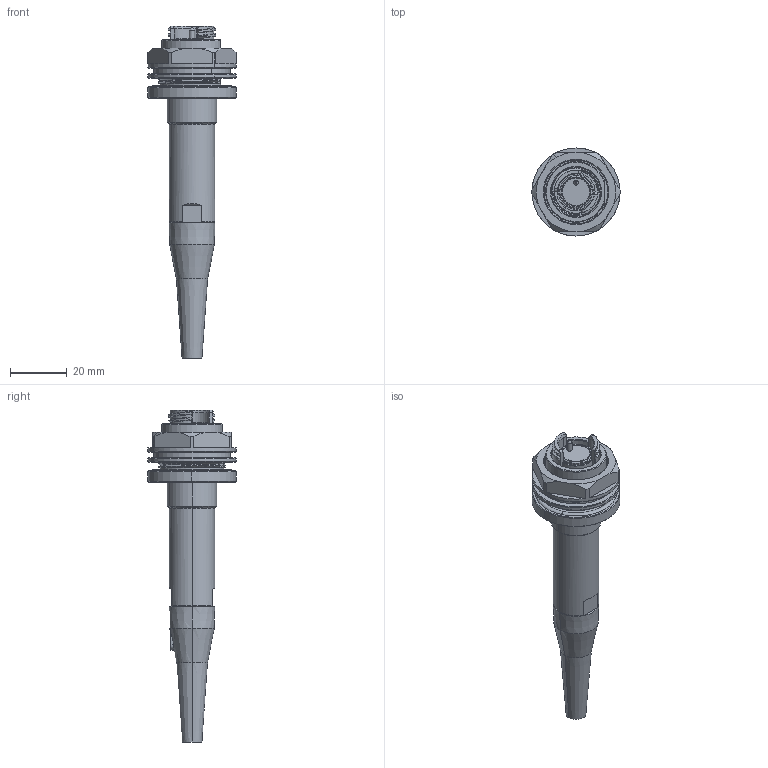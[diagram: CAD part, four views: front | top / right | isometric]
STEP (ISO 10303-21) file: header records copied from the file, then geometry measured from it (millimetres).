
FILE_DESCRIPTION (( 'STEP AP214' ), '1' );
FILE_NAME ('QMICRO-RJXX-XXXX-SX5.STEP', '2025-05-02T23:45:39', ( '' ), ( '' ), 'SwSTEP 2.0', 'SolidWorks 2024', '' );
FILE_SCHEMA (( 'AUTOMOTIVE_DESIGN' ));
Length unit declared in the file: inch
Products named in the file (1): QMICRO-RJXX-XXXX-SX5
Bounding box: 31 x 31 x 116.82 mm (x, y, z)
Volume: 23990.5 mm3; surface area: 13095.7 mm2
Topology: 1 solids, 2 shells, 301 faces, 788 edges, 503 vertices
Faces by surface type: cylinder 121, cone 71, plane 60, bspline 34, torus 15
Entity records: 17625 total; most frequent: CARTESIAN_POINT 10793, ORIENTED_EDGE 1576, DIRECTION 1288, EDGE_CURVE 788, AXIS2_PLACEMENT_3D 512, VERTEX_POINT 503, EDGE_LOOP 325, FACE_OUTER_BOUND 301
